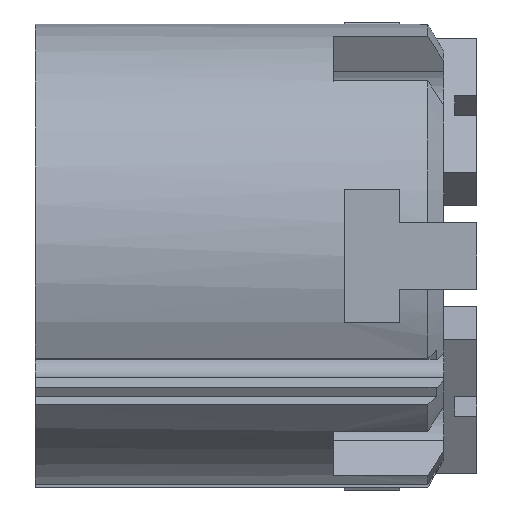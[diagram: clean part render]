
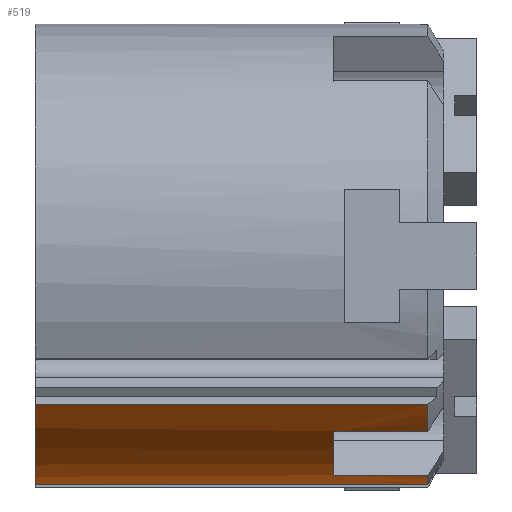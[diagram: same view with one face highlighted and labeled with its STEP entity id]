
A CAD part, left-side view. The second image highlights one B-rep face of the part: STEP entity #519.
In plain terms, the highlighted cylindrical face has radius 21 mm (diameter 42 mm), a partial arc.
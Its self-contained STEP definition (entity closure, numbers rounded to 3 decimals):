
#519=ADVANCED_FACE('',(#959),#960,.T.);
#959=FACE_OUTER_BOUND('',#1384,.T.);
#960=CYLINDRICAL_SURFACE('',#1385,21.0);
#1384=EDGE_LOOP('',(#2393,#2394,#2395,#2396,#2397,#2398,#2399,#2400));
#1385=AXIS2_PLACEMENT_3D('',#2401,#2402,#2403);
#2393=ORIENTED_EDGE('',*,*,#2739,.F.);
#2394=ORIENTED_EDGE('',*,*,#2796,.T.);
#2395=ORIENTED_EDGE('',*,*,#2698,.T.);
#2396=ORIENTED_EDGE('',*,*,#2631,.F.);
#2397=ORIENTED_EDGE('',*,*,#2897,.F.);
#2398=ORIENTED_EDGE('',*,*,#2701,.T.);
#2399=ORIENTED_EDGE('',*,*,#2839,.F.);
#2400=ORIENTED_EDGE('',*,*,#2645,.F.);
#2401=CARTESIAN_POINT('',(0.0,-37.0,0.0));
#2402=DIRECTION('',(0.0,-1.0,0.0));
#2403=DIRECTION('',(0.0,0.0,1.0));
#2631=EDGE_CURVE('',#3136,#3138,#3139,.T.);
#2645=EDGE_CURVE('',#3161,#3162,#3163,.T.);
#2698=EDGE_CURVE('',#3238,#3138,#3241,.T.);
#2701=EDGE_CURVE('',#3246,#3243,#3247,.T.);
#2739=EDGE_CURVE('',#3303,#3161,#3304,.T.);
#2796=EDGE_CURVE('',#3303,#3238,#3391,.T.);
#2839=EDGE_CURVE('',#3162,#3243,#3446,.T.);
#2897=EDGE_CURVE('',#3246,#3136,#3511,.T.);
#3136=VERTEX_POINT('',#3885);
#3138=VERTEX_POINT('',#3888);
#3139=CIRCLE('',#3889,21.0);
#3161=VERTEX_POINT('',#3916);
#3162=VERTEX_POINT('',#3917);
#3163=CIRCLE('',#3918,21.0);
#3238=VERTEX_POINT('',#4028);
#3241=LINE('',#4035,#4036);
#3243=VERTEX_POINT('',#4038);
#3246=VERTEX_POINT('',#4044);
#3247=CIRCLE('',#4045,21.0);
#3303=VERTEX_POINT('',#4138);
#3304=LINE('',#4139,#4140);
#3391=CIRCLE('',#4270,21.0);
#3446=LINE('',#4348,#4349);
#3511=LINE('',#4446,#4447);
#3885=CARTESIAN_POINT('',(-3.588,0.0,-20.691));
#3888=CARTESIAN_POINT('',(-16.125,0.0,-13.453));
#3889=AXIS2_PLACEMENT_3D('',#4639,#4640,#4641);
#3916=CARTESIAN_POINT('',(-13.772,-27.0,-15.854));
#3917=CARTESIAN_POINT('',(-6.844,-27.0,-19.854));
#3918=AXIS2_PLACEMENT_3D('',#4659,#4660,#4661);
#4028=CARTESIAN_POINT('',(-16.125,-35.557,-13.453));
#4035=CARTESIAN_POINT('',(-16.125,-37.0,-13.453));
#4036=VECTOR('',#4710,1.0);
#4038=CARTESIAN_POINT('',(-6.844,-35.557,-19.854));
#4044=CARTESIAN_POINT('',(-3.588,-35.557,-20.691));
#4045=AXIS2_PLACEMENT_3D('',#4711,#4712,#4713);
#4138=CARTESIAN_POINT('',(-13.772,-35.557,-15.854));
#4139=CARTESIAN_POINT('',(-13.772,-37.0,-15.854));
#4140=VECTOR('',#4742,1.0);
#4270=AXIS2_PLACEMENT_3D('',#4807,#4808,#4809);
#4348=CARTESIAN_POINT('',(-6.844,-37.0,-19.854));
#4349=VECTOR('',#4842,1.0);
#4446=CARTESIAN_POINT('',(-3.588,-37.0,-20.691));
#4447=VECTOR('',#4875,1.0);
#4639=CARTESIAN_POINT('',(0.0,0.0,0.0));
#4640=DIRECTION('',(-0.0,1.0,0.0));
#4641=DIRECTION('',(1.0,0.0,0.0));
#4659=CARTESIAN_POINT('',(0.0,-27.0,0.0));
#4660=DIRECTION('',(0.0,-1.0,0.0));
#4661=DIRECTION('',(0.0,0.0,1.0));
#4710=DIRECTION('',(0.0,1.0,0.0));
#4711=CARTESIAN_POINT('',(0.0,-35.557,0.0));
#4712=DIRECTION('',(0.0,1.0,0.0));
#4713=DIRECTION('',(0.0,0.0,1.0));
#4742=DIRECTION('',(0.0,1.0,0.0));
#4807=CARTESIAN_POINT('',(0.0,-35.557,0.0));
#4808=DIRECTION('',(0.0,1.0,0.0));
#4809=DIRECTION('',(0.0,0.0,1.0));
#4842=DIRECTION('',(0.0,-1.0,0.0));
#4875=DIRECTION('',(0.0,1.0,0.0));
